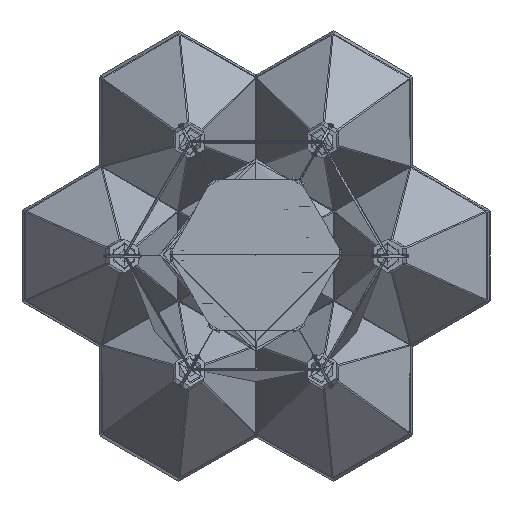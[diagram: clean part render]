
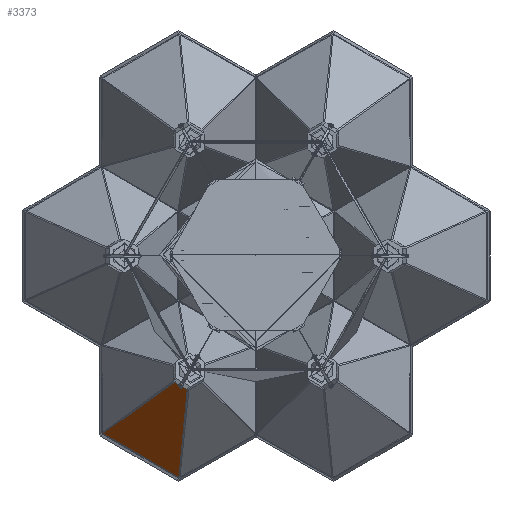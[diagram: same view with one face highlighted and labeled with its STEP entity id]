
A CAD part, top view. The second image highlights one B-rep face of the part: STEP entity #3373.
In plain terms, the highlighted free-form (B-spline) face has degree [1, 2] with [2, 9] control points.
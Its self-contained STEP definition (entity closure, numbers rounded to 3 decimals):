
#3373=ADVANCED_FACE('',(#5879),#41491,.T.);
#5879=FACE_OUTER_BOUND('',#8478,.T.);
#8478=EDGE_LOOP('',(#15043,#15044,#15045,#15046,#15047,#15048));
#15043=ORIENTED_EDGE('',*,*,#25748,.F.);
#15044=ORIENTED_EDGE('',*,*,#25838,.T.);
#15045=ORIENTED_EDGE('',*,*,#25727,.F.);
#15046=ORIENTED_EDGE('',*,*,#25712,.T.);
#15047=ORIENTED_EDGE('',*,*,#25707,.F.);
#15048=ORIENTED_EDGE('',*,*,#25698,.T.);
#25698=EDGE_CURVE('',#38192,#38194,#31323,.T.);
#25707=EDGE_CURVE('',#38192,#38199,#31329,.T.);
#25712=EDGE_CURVE('',#38201,#38199,#31333,.T.);
#25727=EDGE_CURVE('',#38201,#38205,#31341,.T.);
#25748=EDGE_CURVE('',#38208,#38194,#31350,.T.);
#25838=EDGE_CURVE('',#38208,#38205,#31407,.T.);
#31323=B_SPLINE_CURVE_WITH_KNOTS('',3,(#67172,#67173,#67174,#67175,#67176,
#67177,#67178),.UNSPECIFIED.,.F.,.F.,(4,1,1,1,4),(-189.354,-153.965,
-118.576,-71.392,-24.207),.UNSPECIFIED.);
#31329=B_SPLINE_CURVE_WITH_KNOTS('',1,(#67210,#67211),.UNSPECIFIED.,.F.,
 .F.,(2,2),(0.,102.203),.UNSPECIFIED.);
#31333=B_SPLINE_CURVE_WITH_KNOTS('',3,(#67229,#67230,#67231,#67232,#67233,
#67234,#67235),.UNSPECIFIED.,.F.,.F.,(4,1,1,1,4),(-1314.671,-1279.283,
-1243.894,-1196.709,-1149.525),.UNSPECIFIED.);
#31341=B_SPLINE_CURVE_WITH_KNOTS('',3,(#67277,#67278,#67279,#67280),
 .UNSPECIFIED.,.F.,.F.,(4,4),(36.744,36.772),
 .UNSPECIFIED.);
#31350=B_SPLINE_CURVE_WITH_KNOTS('',3,(#67333,#67334,#67335,#67336),
 .UNSPECIFIED.,.F.,.F.,(4,4),(0.,0.027),
 .UNSPECIFIED.);
#31407=B_SPLINE_CURVE_WITH_KNOTS('',1,(#67582,#67583),.UNSPECIFIED.,.F.,
 .F.,(2,2),(0.,17.321),.UNSPECIFIED.);
#38192=VERTEX_POINT('',#66788);
#38194=VERTEX_POINT('',#66790);
#38199=VERTEX_POINT('',#66795);
#38201=VERTEX_POINT('',#66797);
#38205=VERTEX_POINT('',#66801);
#38208=VERTEX_POINT('',#66804);
#41491=(
BOUNDED_SURFACE()
B_SPLINE_SURFACE(1,2,((#66465,#66466,#66467,#66468,#66469,#66470,#66471,
#66472,#66473),(#66474,#66475,#66476,#66477,#66478,#66479,#66480,#66481,
#66482)),.UNSPECIFIED.,.F.,.F.,.F.)
B_SPLINE_SURFACE_WITH_KNOTS((2,2),(3,2,2,2,3),(0.,168.808),(0.,
310.265,620.531,930.796,1241.061),
 .UNSPECIFIED.)
GEOMETRIC_REPRESENTATION_ITEM()
RATIONAL_B_SPLINE_SURFACE(((1.,0.707,1.,0.707,1.,
0.707,1.,0.707,1.),(1.,0.707,1.,0.707,
1.,0.707,1.,0.707,1.)))
REPRESENTATION_ITEM('')
SURFACE()
);
#66465=CARTESIAN_POINT('',(-363.967,-440.384,-543.105));
#66466=CARTESIAN_POINT('',(-363.967,-440.384,-740.626));
#66467=CARTESIAN_POINT('',(-265.207,-269.326,-740.626));
#66468=CARTESIAN_POINT('',(-166.446,-98.268,-740.626));
#66469=CARTESIAN_POINT('',(-166.446,-98.268,-543.105));
#66470=CARTESIAN_POINT('',(-166.446,-98.268,-345.584));
#66471=CARTESIAN_POINT('',(-265.207,-269.326,-345.584));
#66472=CARTESIAN_POINT('',(-363.967,-440.384,-345.584));
#66473=CARTESIAN_POINT('',(-363.967,-440.384,-543.105));
#66474=CARTESIAN_POINT('',(-217.775,-524.788,-543.105));
#66475=CARTESIAN_POINT('',(-217.775,-524.788,-740.626));
#66476=CARTESIAN_POINT('',(-119.015,-353.73,-740.626));
#66477=CARTESIAN_POINT('',(-20.254,-182.672,-740.626));
#66478=CARTESIAN_POINT('',(-20.254,-182.672,-543.105));
#66479=CARTESIAN_POINT('',(-20.254,-182.672,-345.584));
#66480=CARTESIAN_POINT('',(-119.015,-353.73,-345.584));
#66481=CARTESIAN_POINT('',(-217.775,-524.788,-345.584));
#66482=CARTESIAN_POINT('',(-217.775,-524.788,-543.105));
#66788=CARTESIAN_POINT('',(-89.895,-257.907,-714.859));
#66790=CARTESIAN_POINT('',(-80.092,-156.057,-594.747));
#66795=CARTESIAN_POINT('',(-178.406,-206.805,-714.859));
#66797=CARTESIAN_POINT('',(-95.103,-147.391,-594.747));
#66801=CARTESIAN_POINT('',(-95.098,-147.394,-594.747));
#66804=CARTESIAN_POINT('',(-80.098,-156.054,-594.747));
#67172=CARTESIAN_POINT('',(-89.895,-257.907,-714.859));
#67173=CARTESIAN_POINT('',(-89.439,-246.982,-709.357));
#67174=CARTESIAN_POINT('',(-88.394,-226.289,-696.707));
#67175=CARTESIAN_POINT('',(-86.266,-196.626,-670.751));
#67176=CARTESIAN_POINT('',(-83.507,-171.294,-636.886));
#67177=CARTESIAN_POINT('',(-81.253,-159.872,-609.087));
#67178=CARTESIAN_POINT('',(-80.092,-156.057,-594.747));
#67210=CARTESIAN_POINT('',(-89.895,-257.907,-714.859));
#67211=CARTESIAN_POINT('',(-178.406,-206.805,-714.859));
#67229=CARTESIAN_POINT('',(-95.103,-147.391,-594.747));
#67230=CARTESIAN_POINT('',(-97.146,-149.575,-605.502));
#67231=CARTESIAN_POINT('',(-103.095,-154.976,-626.517));
#67232=CARTESIAN_POINT('',(-118.928,-167.158,-658.896));
#67233=CARTESIAN_POINT('',(-143.374,-184.2,-689.921));
#67234=CARTESIAN_POINT('',(-166.096,-198.995,-707.523));
#67235=CARTESIAN_POINT('',(-178.406,-206.805,-714.859));
#67277=CARTESIAN_POINT('',(-95.103,-147.391,-594.747));
#67278=CARTESIAN_POINT('',(-95.101,-147.392,-594.747));
#67279=CARTESIAN_POINT('',(-95.1,-147.393,-594.747));
#67280=CARTESIAN_POINT('',(-95.098,-147.394,-594.747));
#67333=CARTESIAN_POINT('',(-80.098,-156.054,-594.747));
#67334=CARTESIAN_POINT('',(-80.096,-156.055,-594.747));
#67335=CARTESIAN_POINT('',(-80.094,-156.056,-594.747));
#67336=CARTESIAN_POINT('',(-80.092,-156.057,-594.747));
#67582=CARTESIAN_POINT('',(-80.098,-156.054,-594.747));
#67583=CARTESIAN_POINT('',(-95.098,-147.394,-594.747));
